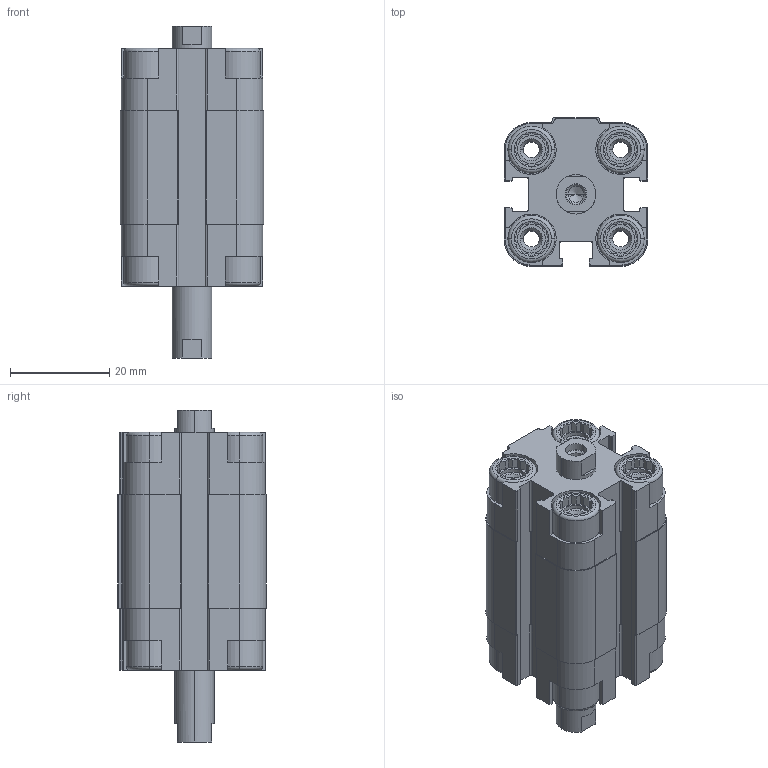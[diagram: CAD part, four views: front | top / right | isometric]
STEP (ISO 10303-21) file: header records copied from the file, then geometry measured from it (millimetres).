
FILE_DESCRIPTION (( 'STEP AP203' ), '1' );
FILE_NAME ('CDVU16-10F-P.STEP', '2020-07-24T18:04:03', ( '' ), ( '' ), 'SwSTEP 2.0', 'SolidWorks 2019', '' );
FILE_SCHEMA (( 'CONFIG_CONTROL_DESIGN' ));
Length unit declared in the file: millimetre
Products named in the file (1): CDVU16-10F-P
Bounding box: 29 x 30 x 67 mm (x, y, z)
Volume: 29800.2 mm3; surface area: 17083.9 mm2
Topology: 2 solids, 2 shells, 566 faces, 1508 edges, 980 vertices
Faces by surface type: plane 338, cylinder 164, cone 48, torus 16
Entity records: 17779 total; most frequent: CARTESIAN_POINT 3623, ORIENTED_EDGE 3000, DIRECTION 2850, EDGE_CURVE 1500, VERTEX_POINT 980, AXIS2_PLACEMENT_3D 975, LINE 900, VECTOR 900
